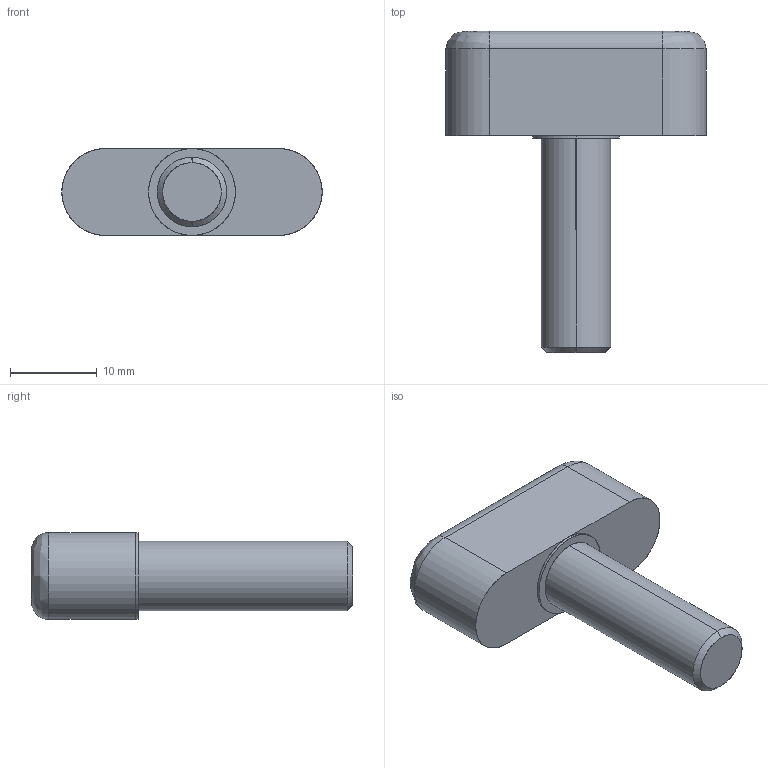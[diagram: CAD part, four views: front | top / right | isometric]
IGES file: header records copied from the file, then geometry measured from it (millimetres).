
Start section: SolidWorks IGES file using analytic representation for surfaces
Global section: file name: C:\Documents and Settings\IanO.IANOHOME\My Documents\Wix and Auto CAD Work\CAD Models\Parametric Models\Wix Models\3738\3738_IGES\3738.W083.igs; native system: SolidWorks 2009; preprocessor: SolidWorks 2009; author: IanO; date: 091209.215734; units: millimetre
Bounding box: 30 x 37 x 10 mm (x, y, z)
Surface area: 1971.6 mm2 (no closed solid volume)
Topology: 0 solids, 0 shells, 19 faces, 256 edges, 256 vertices
Faces by surface type: revolution 10, bspline 9
